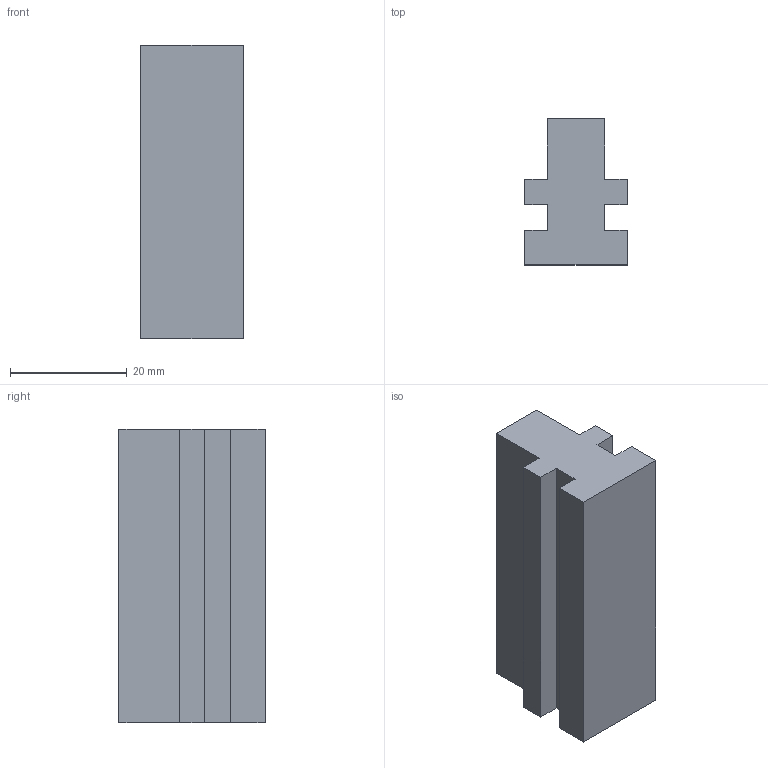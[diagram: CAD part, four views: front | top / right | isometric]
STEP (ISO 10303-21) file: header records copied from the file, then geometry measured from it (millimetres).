
FILE_DESCRIPTION (( 'STEP AP214' ), '1' );
FILE_NAME ('6.04.sppg.STEP', '2015-06-06T01:14:59', ( '' ), ( '' ), 'SwSTEP 2.0', 'SolidWorks 2015', '' );
FILE_SCHEMA (( 'AUTOMOTIVE_DESIGN' ));
Length unit declared in the file: millimetre
Products named in the file (1): 6.04.sppg
Bounding box: 17.5 x 25 x 50.2 mm (x, y, z)
Volume: 16203.1 mm3; surface area: 5685.6 mm2
Topology: 1 solids, 1 shells, 18 faces, 48 edges, 32 vertices
Faces by surface type: plane 18
Entity records: 586 total; most frequent: CARTESIAN_POINT 99, ORIENTED_EDGE 96, DIRECTION 86, VECTOR 48, LINE 48, EDGE_CURVE 48, VERTEX_POINT 32, AXIS2_PLACEMENT_3D 19
